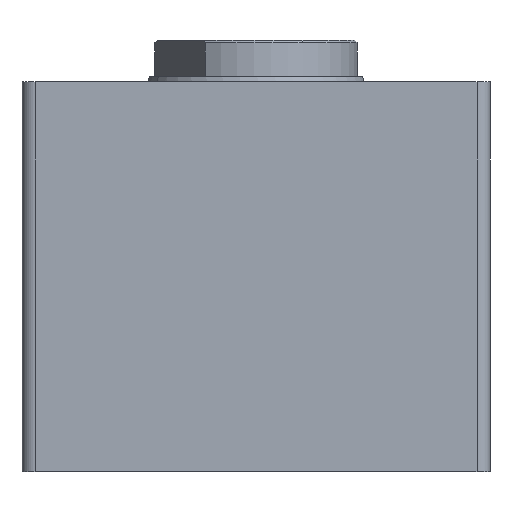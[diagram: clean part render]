
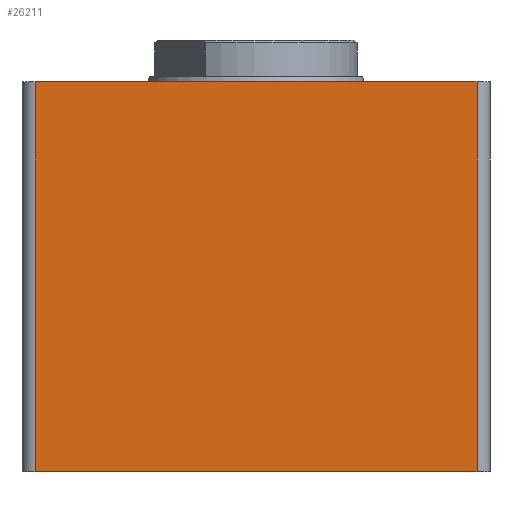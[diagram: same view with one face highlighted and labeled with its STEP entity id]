
A CAD part, left-side view. The second image highlights one B-rep face of the part: STEP entity #26211.
In plain terms, the highlighted planar face has unit normal (-1, 0, 0).
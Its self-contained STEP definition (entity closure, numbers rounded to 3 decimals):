
#1113 = VECTOR ( 'NONE', #23207, 1000. ) ;
#1174 = CARTESIAN_POINT ( 'NONE',  ( 0., 5., 0. ) ) ;
#1360 = VERTEX_POINT ( 'NONE', #16934 ) ;
#1913 = CARTESIAN_POINT ( 'NONE',  ( 0., 0., 150. ) ) ;
#2489 = EDGE_CURVE ( 'NONE', #1360, #23878, #16665, .T. ) ;
#4139 = LINE ( 'NONE', #6504, #23049 ) ;
#4705 = PLANE ( 'NONE',  #26223 ) ;
#4958 = CARTESIAN_POINT ( 'NONE',  ( 0., 0., 0. ) ) ;
#5716 = EDGE_CURVE ( 'NONE', #1360, #23368, #4139, .T. ) ;
#6202 = VECTOR ( 'NONE', #7458, 1000. ) ;
#6504 = CARTESIAN_POINT ( 'NONE',  ( 0., 175., 150. ) ) ;
#6925 = FACE_OUTER_BOUND ( 'NONE', #22159, .T. ) ;
#7208 = DIRECTION ( 'NONE',  ( 1., 0., 0. ) ) ;
#7458 = DIRECTION ( 'NONE',  ( 0., -1., 0. ) ) ;
#7518 = ORIENTED_EDGE ( 'NONE', *, *, #2489, .F. ) ;
#7605 = EDGE_CURVE ( 'NONE', #16854, #23878, #20578, .T. ) ;
#7777 = DIRECTION ( 'NONE',  ( 0., -1., 0. ) ) ;
#8765 = CARTESIAN_POINT ( 'NONE',  ( 0., 175., 0. ) ) ;
#13472 = DIRECTION ( 'NONE',  ( 0., 0., -1. ) ) ;
#14727 = DIRECTION ( 'NONE',  ( 0., 0., -1. ) ) ;
#16665 = LINE ( 'NONE', #1913, #26783 ) ;
#16785 = CARTESIAN_POINT ( 'NONE',  ( 0., 5., 150. ) ) ;
#16854 = VERTEX_POINT ( 'NONE', #1174 ) ;
#16934 = CARTESIAN_POINT ( 'NONE',  ( 0., 175., 150. ) ) ;
#17324 = ORIENTED_EDGE ( 'NONE', *, *, #18457, .T. ) ;
#18457 = EDGE_CURVE ( 'NONE', #23368, #16854, #26408, .T. ) ;
#20578 = LINE ( 'NONE', #16785, #1113 ) ;
#21345 = ORIENTED_EDGE ( 'NONE', *, *, #7605, .T. ) ;
#22159 = EDGE_LOOP ( 'NONE', ( #17324, #21345, #7518, #24279 ) ) ;
#23049 = VECTOR ( 'NONE', #14727, 1000. ) ;
#23207 = DIRECTION ( 'NONE',  ( 0., 0., 1. ) ) ;
#23368 = VERTEX_POINT ( 'NONE', #8765 ) ;
#23653 = CARTESIAN_POINT ( 'NONE',  ( 0., 0., 150. ) ) ;
#23878 = VERTEX_POINT ( 'NONE', #24477 ) ;
#24279 = ORIENTED_EDGE ( 'NONE', *, *, #5716, .T. ) ;
#24477 = CARTESIAN_POINT ( 'NONE',  ( 0., 5., 150. ) ) ;
#26211 = ADVANCED_FACE ( 'NONE', ( #6925 ), #4705, .F. ) ;
#26223 = AXIS2_PLACEMENT_3D ( 'NONE', #23653, #7208, #13472 ) ;
#26408 = LINE ( 'NONE', #4958, #6202 ) ;
#26783 = VECTOR ( 'NONE', #7777, 1000. ) ;
